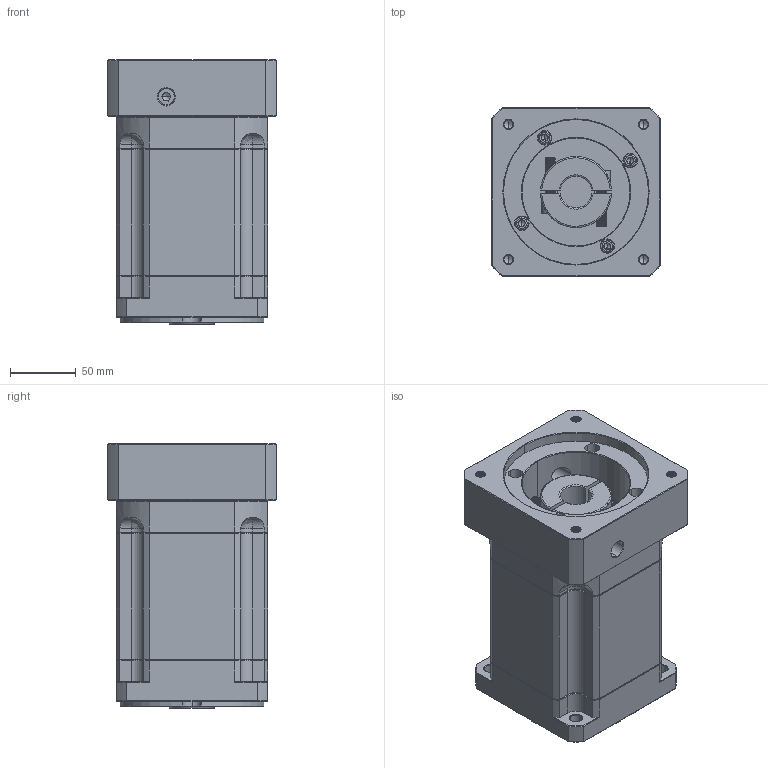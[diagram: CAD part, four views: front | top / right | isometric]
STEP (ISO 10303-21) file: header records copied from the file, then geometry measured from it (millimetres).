
FILE_DESCRIPTION (( 'STEP AP214' ), '1' );
FILE_NAME ('ZB115A-K25-L3-P2-24-110-145-M8.step', '2023-08-26T06:39:59', ( '' ), ( '' ), 'SwSTEP 2.0', 'SolidWorks 2016', '' );
FILE_SCHEMA (( 'AUTOMOTIVE_DESIGN' ));
Length unit declared in the file: millimetre
Products named in the file (1): ZB115A-K25-L3-P2-24-110-145-M8
Bounding box: 128 x 128 x 200.5 mm (x, y, z)
Volume: 2226290.5 mm3; surface area: 200204.5 mm2
Topology: 6 solids, 6 shells, 2335 faces, 6124 edges, 3888 vertices
Faces by surface type: plane 1136, bspline 414, cylinder 406, cone 359, torus 20
Entity records: 123327 total; most frequent: CARTESIAN_POINT 43495, ORIENTED_EDGE 12184, DIRECTION 9681, EDGE_CURVE 6092, LINE 3941, VECTOR 3941, VERTEX_POINT 3888, AXIS2_PLACEMENT_3D 2870
